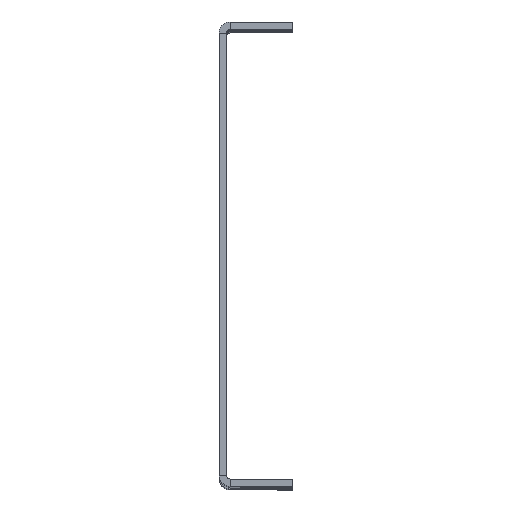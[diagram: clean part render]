
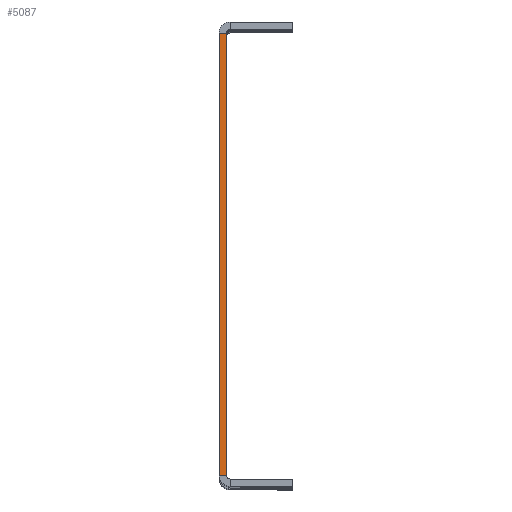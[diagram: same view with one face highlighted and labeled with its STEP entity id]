
A CAD part, top view. The second image highlights one B-rep face of the part: STEP entity #5087.
In plain terms, the highlighted planar face has unit normal (0, 0, 1).
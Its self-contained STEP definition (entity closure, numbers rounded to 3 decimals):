
#69 = CARTESIAN_POINT ( 'NONE',  ( 1., 30., 140. ) ) ;
#576 = DIRECTION ( 'NONE',  ( 1., 0., 0. ) ) ;
#609 = CARTESIAN_POINT ( 'NONE',  ( 0., -30., 140. ) ) ;
#791 = ORIENTED_EDGE ( 'NONE', *, *, #914, .F. ) ;
#810 = LINE ( 'NONE', #2170, #5304 ) ;
#865 = CARTESIAN_POINT ( 'NONE',  ( 0., -30., 140. ) ) ;
#914 = EDGE_CURVE ( 'NONE', #2171, #2144, #1455, .T. ) ;
#1018 = FACE_OUTER_BOUND ( 'NONE', #2385, .T. ) ;
#1037 = DIRECTION ( 'NONE',  ( 0., 1., 0. ) ) ;
#1057 = ORIENTED_EDGE ( 'NONE', *, *, #3048, .T. ) ;
#1129 = VECTOR ( 'NONE', #2065, 1000. ) ;
#1428 = VECTOR ( 'NONE', #576, 1000. ) ;
#1455 = LINE ( 'NONE', #1962, #5630 ) ;
#1555 = VERTEX_POINT ( 'NONE', #3058 ) ;
#1564 = DIRECTION ( 'NONE',  ( 1., 0., 0. ) ) ;
#1874 = VERTEX_POINT ( 'NONE', #69 ) ;
#1962 = CARTESIAN_POINT ( 'NONE',  ( 0., -31.5, 140. ) ) ;
#1976 = CARTESIAN_POINT ( 'NONE',  ( 1., 30., 140. ) ) ;
#2064 = PLANE ( 'NONE',  #2105 ) ;
#2065 = DIRECTION ( 'NONE',  ( -1., 0., 0. ) ) ;
#2091 = DIRECTION ( 'NONE',  ( 0., 0., 1. ) ) ;
#2096 = ORIENTED_EDGE ( 'NONE', *, *, #4470, .T. ) ;
#2105 = AXIS2_PLACEMENT_3D ( 'NONE', #3984, #2091, #1564 ) ;
#2144 = VERTEX_POINT ( 'NONE', #3711 ) ;
#2170 = CARTESIAN_POINT ( 'NONE',  ( 1., -31.5, 140. ) ) ;
#2171 = VERTEX_POINT ( 'NONE', #865 ) ;
#2385 = EDGE_LOOP ( 'NONE', ( #791, #1057, #2096, #4169 ) ) ;
#2685 = DIRECTION ( 'NONE',  ( 0., 1., 0. ) ) ;
#3048 = EDGE_CURVE ( 'NONE', #2171, #1555, #3516, .T. ) ;
#3058 = CARTESIAN_POINT ( 'NONE',  ( 1., -30., 140. ) ) ;
#3284 = EDGE_CURVE ( 'NONE', #1874, #2144, #3490, .T. ) ;
#3490 = LINE ( 'NONE', #1976, #1129 ) ;
#3516 = LINE ( 'NONE', #609, #1428 ) ;
#3711 = CARTESIAN_POINT ( 'NONE',  ( 0., 30., 140. ) ) ;
#3984 = CARTESIAN_POINT ( 'NONE',  ( 1.5, -30.5, 140. ) ) ;
#4169 = ORIENTED_EDGE ( 'NONE', *, *, #3284, .T. ) ;
#4470 = EDGE_CURVE ( 'NONE', #1555, #1874, #810, .T. ) ;
#5087 = ADVANCED_FACE ( 'NONE', ( #1018 ), #2064, .T. ) ;
#5304 = VECTOR ( 'NONE', #2685, 1000. ) ;
#5630 = VECTOR ( 'NONE', #1037, 1000. ) ;
